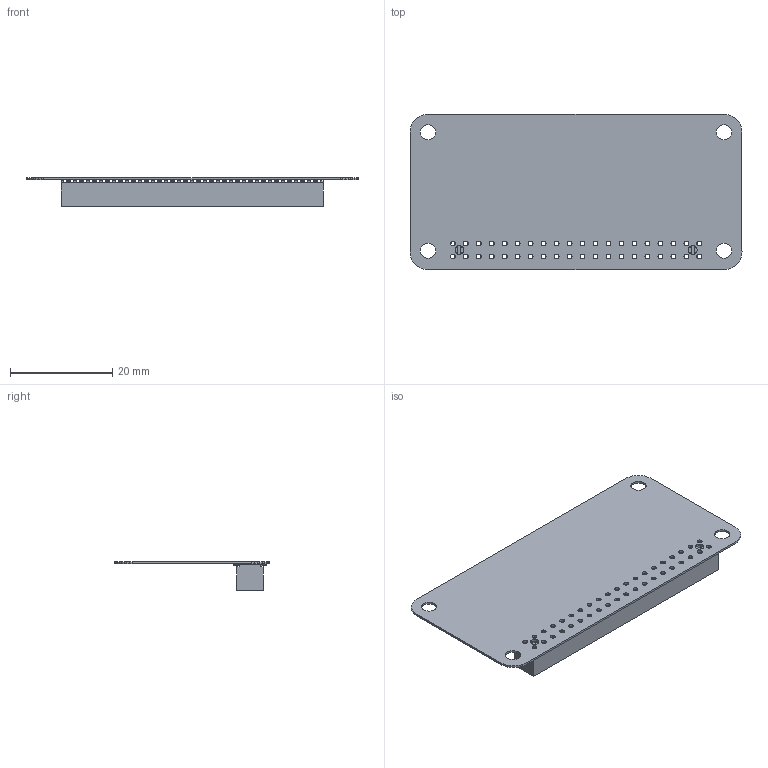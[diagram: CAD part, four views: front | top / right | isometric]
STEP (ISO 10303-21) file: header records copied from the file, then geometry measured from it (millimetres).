
FILE_DESCRIPTION(('Open CASCADE Model'),'2;1');
FILE_NAME('Open CASCADE Shape Model','2025-06-28T15:29:37',('Author'),( 'Open CASCADE'),'Open CASCADE STEP processor 6.5','Open CASCADE 6.5' ,'Unknown');
FILE_SCHEMA(('AUTOMOTIVE_DESIGN { 1 0 10303 214 1 1 1 1 }'));
Length unit declared in the file: millimetre
Products named in the file (4): PCB; Board; P1; Header-SMD-F-2.54X40
Assembly tree (3 placements, depth 3):
  PCB
    Board
    P1
      Header-SMD-F-2.54X40
Bounding box: 65.02 x 30.42 x 5.61 mm (x, y, z)
Volume: 1573.1 mm3; surface area: 6344.5 mm2
Topology: 2 solids, 2 shells, 1272 faces, 3518 edges, 2292 vertices
Faces by surface type: plane 1026, cylinder 246
Full cylindrical faces by diameter (mm): 0.95 x40, 1.7 x2, 3 x4
Entity records: 111485 total; most frequent: CARTESIAN_POINT 20222, DIRECTION 12666, LINE 8770, VECTOR 8770, ORIENTED_EDGE 7036, PCURVE 7036, DEFINITIONAL_REPRESENTATION 7036, PRESENTATION_STYLE_ASSIGNMENT 4429
